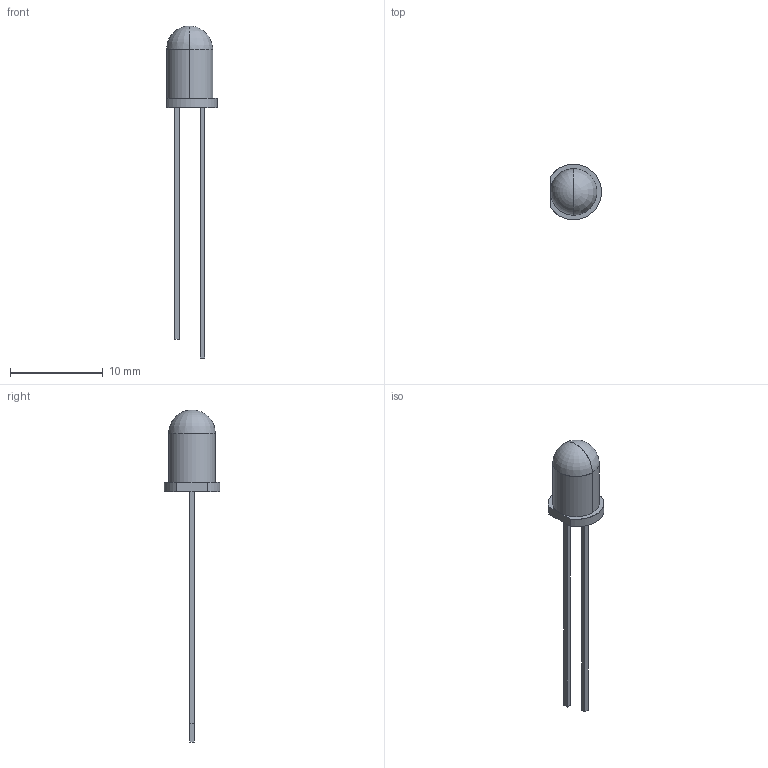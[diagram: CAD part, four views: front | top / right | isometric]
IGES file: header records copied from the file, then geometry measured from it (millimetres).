
Start section: SolidWorks IGES file using analytic representation for surfaces
Global section: file name: C:\Users\Lucas\Documents\SolidWorks Downloads\LED 5mm.IGS; native system: SolidWorks 2013; preprocessor: SolidWorks 2013; author: Lucas; date: 130609.015021; units: millimetre
Bounding box: 5.5 x 6 x 35.8 mm (x, y, z)
Surface area: 328.3 mm2 (no closed solid volume)
Topology: 0 solids, 0 shells, 45 faces, 379 edges, 376 vertices
Faces by surface type: bspline 36, revolution 9
